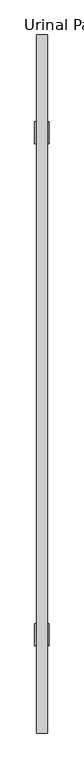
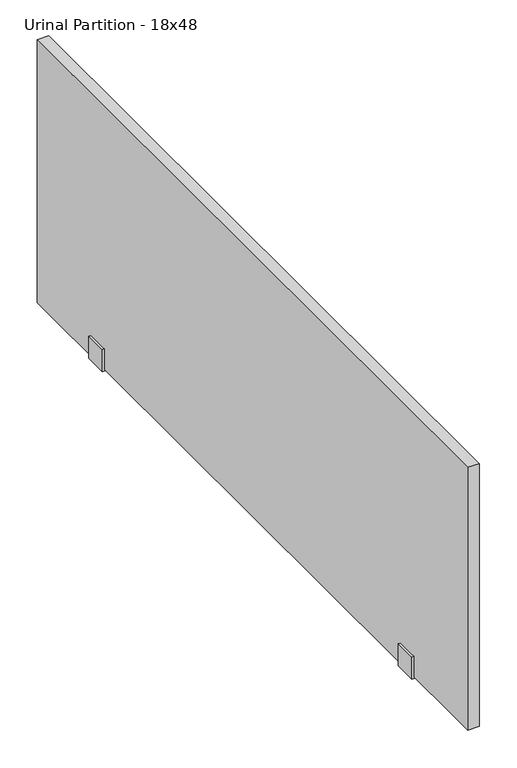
"""IFC4 building model written with IfcOpenShell, lengths in millimetres: proxy geometry, Urinal-Partition_Ironwood-Mfg : Urinal Partition - 18x48."""

from ifc_helpers import new_model, si_unit, frame, origin, place, context, project, spatial, polyline, outline, extrude, source, transform, mapped, element, save


def urinal_partition_18x48_1ea6b7db(model_context):
    return source(origin(), model_context, "Body", "SweptSolid", [
        extrude(outline(polyline([(38.1, 9.525), (3.175, 9.525), (3.175, -9.525), (38.1, -9.525), (38.1, -12.7), (0.0, -12.7), (0.0, 12.7), (38.1, 12.7), (38.1, 9.525)])), frame((0.0, 1333.5, 0.0), z_axis=(0.0, 1.0, 0.0), x_axis=(0.0, 0.0, 1.0)), (0.0, 0.0, 1.0), 38.1),
        extrude(outline(polyline([(38.1, 9.525), (3.175, 9.525), (3.175, -9.525), (38.1, -9.525), (38.1, -12.7), (0.0, -12.7), (0.0, 12.7), (38.1, 12.7), (38.1, 9.525)])), frame((0.0, 457.2, 0.0), z_axis=(0.0, 1.0, 0.0), x_axis=(0.0, 0.0, 1.0)), (0.0, 0.0, 1.0), 38.1),
        extrude(outline(polyline([(-9.525, 304.8), (-9.525, 1523.1614427), (9.525, 1523.1614427), (9.525, 304.8), (-9.525, 304.8)])), frame((0.0, 0.0, 3.175), z_axis=(0.0, 0.0, 1.0), x_axis=(1.0, 0.0, 0.0)), (0.0, 0.0, 1.0), 454.025),
    ])


if __name__ == "__main__":
    model = new_model("IFC4")
    model_context = context("Model", 3, world=origin())
    ifc_project = project(units=[si_unit("LENGTHUNIT", "METRE", prefix="MILLI")], contexts=[model_context])
    site = spatial("IfcSite", under=ifc_project)
    building = spatial("IfcBuilding", under=site)
    placement = place(None, origin())
    urinal_partition_18x48_shape = urinal_partition_18x48_1ea6b7db(model_context)
    element("IfcBuildingElementProxy", 1, Name="Urinal-Partition_Ironwood-Mfg : Urinal Partition - 18x48", ObjectType="Urinal-Partition_Ironwood-Mfg : Urinal Partition - 18x48", at=placement, inside=building, context=model_context, shape_type="MappedRepresentation", body=[
        mapped(urinal_partition_18x48_shape, transform((0.0, 0.0, 0.0), x_axis=(1.0, 0.0, 0.0), y_axis=(0.0, 1.0, 0.0), z_axis=(0.0, 0.0, 1.0))),
    ])
    save(model, "model.ifc")
